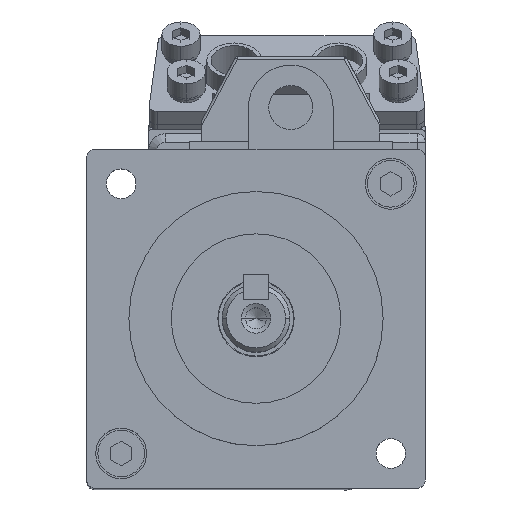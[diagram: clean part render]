
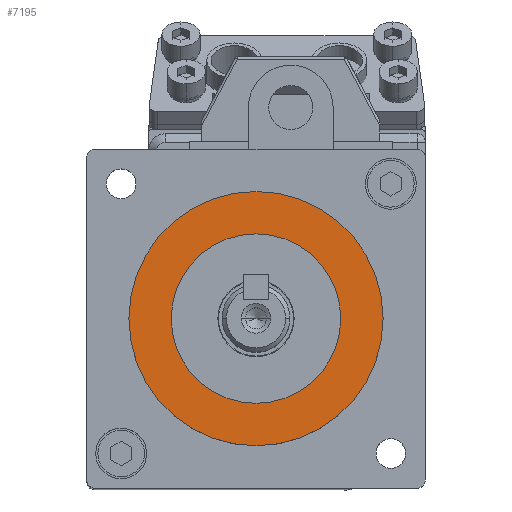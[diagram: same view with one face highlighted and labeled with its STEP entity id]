
A CAD part, top view. The second image highlights one B-rep face of the part: STEP entity #7195.
In plain terms, the highlighted planar face has unit normal (0, 0, 1).
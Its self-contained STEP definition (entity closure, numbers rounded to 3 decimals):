
#977 = DIRECTION ( 'NONE',  ( 0., 0., 1. ) ) ;
#1056 = CIRCLE ( 'NONE', #14267, 15. ) ;
#1223 = DIRECTION ( 'NONE',  ( 1., 0., 0. ) ) ;
#1272 = ORIENTED_EDGE ( 'NONE', *, *, #17564, .T. ) ;
#1640 = FACE_OUTER_BOUND ( 'NONE', #20203, .T. ) ;
#2662 = VERTEX_POINT ( 'NONE', #12830 ) ;
#2876 = AXIS2_PLACEMENT_3D ( 'NONE', #21876, #977, #1223 ) ;
#3235 = EDGE_CURVE ( 'NONE', #13575, #11864, #24945, .T. ) ;
#6854 = CARTESIAN_POINT ( 'NONE',  ( 0., 0., 7.8 ) ) ;
#7195 = ADVANCED_FACE ( 'NONE', ( #10433, #1640 ), #22261, .T. ) ;
#7372 = CIRCLE ( 'NONE', #24559, 10. ) ;
#7616 = DIRECTION ( 'NONE',  ( 0., 0., 1. ) ) ;
#7681 = CARTESIAN_POINT ( 'NONE',  ( 10., 0., 7.8 ) ) ;
#8294 = DIRECTION ( 'NONE',  ( 1., 0., 0. ) ) ;
#8894 = DIRECTION ( 'NONE',  ( 0., 0., 1. ) ) ;
#8958 = VERTEX_POINT ( 'NONE', #10796 ) ;
#10433 = FACE_BOUND ( 'NONE', #12206, .T. ) ;
#10796 = CARTESIAN_POINT ( 'NONE',  ( -15., 0., 7.8 ) ) ;
#10959 = DIRECTION ( 'NONE',  ( 1., 0., 0. ) ) ;
#11040 = CARTESIAN_POINT ( 'NONE',  ( 0., 0., 7.8 ) ) ;
#11713 = CARTESIAN_POINT ( 'NONE',  ( 0., 0., 7.8 ) ) ;
#11864 = VERTEX_POINT ( 'NONE', #20847 ) ;
#12206 = EDGE_LOOP ( 'NONE', ( #13754, #16394 ) ) ;
#12830 = CARTESIAN_POINT ( 'NONE',  ( 15., 0., 7.8 ) ) ;
#13575 = VERTEX_POINT ( 'NONE', #7681 ) ;
#13754 = ORIENTED_EDGE ( 'NONE', *, *, #15910, .F. ) ;
#14196 = EDGE_CURVE ( 'NONE', #2662, #8958, #14956, .T. ) ;
#14267 = AXIS2_PLACEMENT_3D ( 'NONE', #11713, #19425, #24866 ) ;
#14956 = CIRCLE ( 'NONE', #2876, 15. ) ;
#15910 = EDGE_CURVE ( 'NONE', #11864, #13575, #7372, .T. ) ;
#16394 = ORIENTED_EDGE ( 'NONE', *, *, #3235, .F. ) ;
#16616 = DIRECTION ( 'NONE',  ( 0., 0., 1. ) ) ;
#17564 = EDGE_CURVE ( 'NONE', #8958, #2662, #1056, .T. ) ;
#19425 = DIRECTION ( 'NONE',  ( 0., 0., 1. ) ) ;
#20154 = DIRECTION ( 'NONE',  ( 1., 0., 0. ) ) ;
#20203 = EDGE_LOOP ( 'NONE', ( #1272, #24871 ) ) ;
#20847 = CARTESIAN_POINT ( 'NONE',  ( -10., 0., 7.8 ) ) ;
#21263 = AXIS2_PLACEMENT_3D ( 'NONE', #22770, #7616, #8294 ) ;
#21416 = AXIS2_PLACEMENT_3D ( 'NONE', #6854, #8894, #20154 ) ;
#21876 = CARTESIAN_POINT ( 'NONE',  ( 0., 0., 7.8 ) ) ;
#22261 = PLANE ( 'NONE',  #21416 ) ;
#22770 = CARTESIAN_POINT ( 'NONE',  ( 0., 0., 7.8 ) ) ;
#24559 = AXIS2_PLACEMENT_3D ( 'NONE', #11040, #16616, #10959 ) ;
#24866 = DIRECTION ( 'NONE',  ( 1., 0., 0. ) ) ;
#24871 = ORIENTED_EDGE ( 'NONE', *, *, #14196, .T. ) ;
#24945 = CIRCLE ( 'NONE', #21263, 10. ) ;
